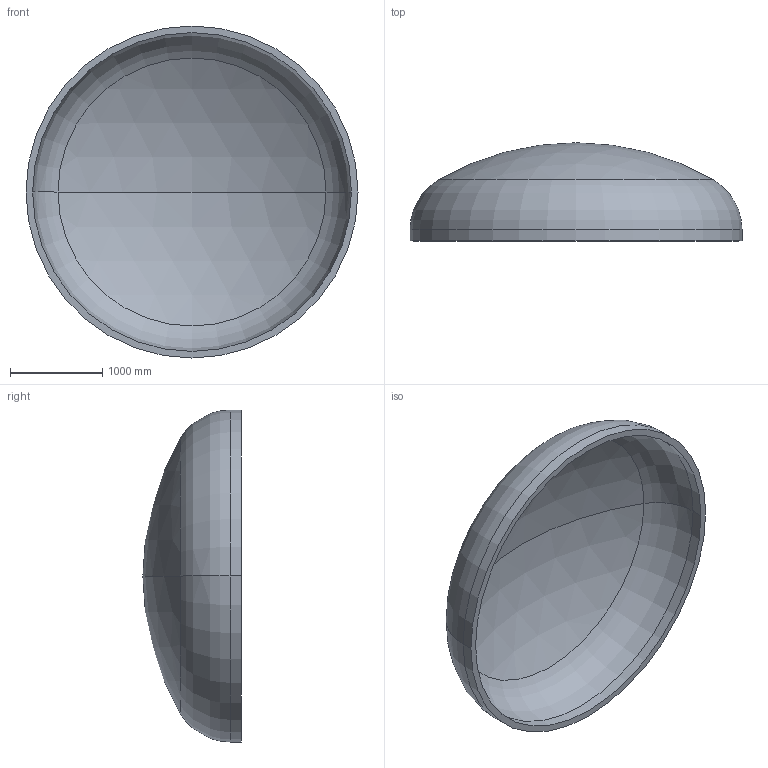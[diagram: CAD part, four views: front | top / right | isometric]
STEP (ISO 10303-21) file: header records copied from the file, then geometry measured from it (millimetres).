
FILE_DESCRIPTION (( 'STEP AP203' ), '1' );
FILE_NAME ('DIN 28013 Korbbogenform_-_Boden DIN 28013 - 3600 x 120 - I - s=72.step', '2016-07-01T20:39:03', ( '' ), ( '' ), 'SwSTEP 2.0', 'SolidWorks 2013', '' );
FILE_SCHEMA (( 'CONFIG_CONTROL_DESIGN' ));
Length unit declared in the file: millimetre
Products named in the file (1): DIN 28013 Korbbogenform_-_Boden DIN 28013 - 3600 x 120 - I - s=72
Bounding box: 3600 x 1064.59 x 3600 mm (x, y, z)
Volume: 1084612908.3 mm3; surface area: 30936998.1 mm2
Topology: 1 solids, 1 shells, 13 faces, 24 edges, 14 vertices
Faces by surface type: torus 4, cylinder 4, sphere 4, plane 1
Entity records: 407 total; most frequent: DIRECTION 72, CARTESIAN_POINT 52, ORIENTED_EDGE 48, AXIS2_PLACEMENT_3D 34, EDGE_CURVE 24, CIRCLE 20, EDGE_LOOP 14, VERTEX_POINT 14
